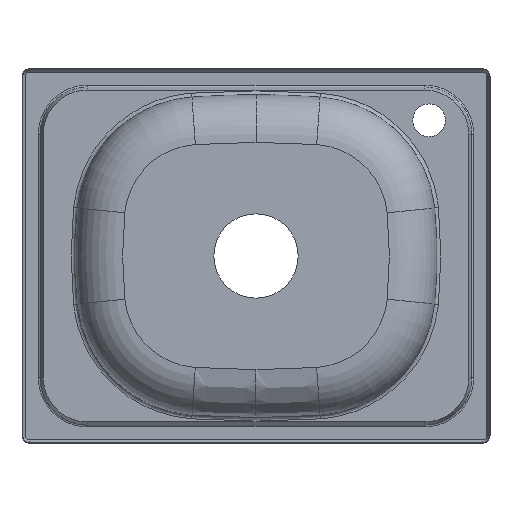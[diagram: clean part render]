
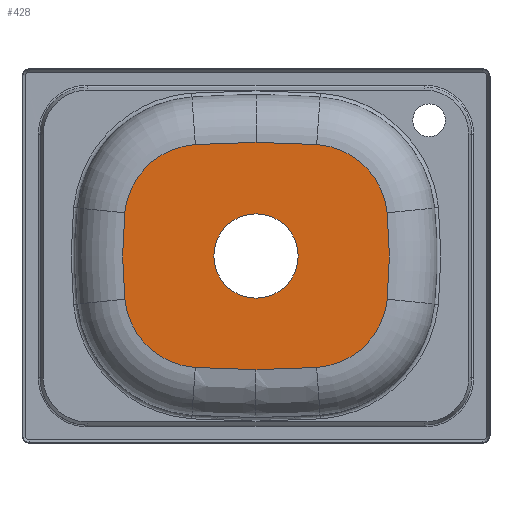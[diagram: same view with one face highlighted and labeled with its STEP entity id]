
A CAD part, front view. The second image highlights one B-rep face of the part: STEP entity #428.
In plain terms, the highlighted planar face has unit normal (0, -1, 0).
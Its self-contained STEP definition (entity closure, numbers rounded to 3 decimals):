
#135=PLANE('',#3218);
#170=FACE_BOUND('',#827,.T.);
#171=FACE_BOUND('',#828,.T.);
#196=B_SPLINE_CURVE_WITH_KNOTS('',5,(#4102,#4103,#4104,#4105,#4106,#4107),
 .UNSPECIFIED.,.F.,.F.,(6,6),(0.,1.),.UNSPECIFIED.);
#197=B_SPLINE_CURVE_WITH_KNOTS('',5,(#4110,#4111,#4112,#4113,#4114,#4115,
#4116,#4117,#4118,#4119,#4120,#4121,#4122,#4123,#4124),.UNSPECIFIED.,.F.,
 .F.,(6,3,3,3,6),(0.,0.33,0.66,0.99,
1.),.UNSPECIFIED.);
#198=B_SPLINE_CURVE_WITH_KNOTS('',5,(#4126,#4127,#4128,#4129,#4130,#4131),
 .UNSPECIFIED.,.F.,.F.,(6,6),(0.,1.),.UNSPECIFIED.);
#199=B_SPLINE_CURVE_WITH_KNOTS('',5,(#4133,#4134,#4135,#4136,#4137,#4138),
 .UNSPECIFIED.,.F.,.F.,(6,6),(0.,1.),.UNSPECIFIED.);
#200=B_SPLINE_CURVE_WITH_KNOTS('',5,(#4140,#4141,#4142,#4143,#4144,#4145,
#4146,#4147,#4148,#4149,#4150,#4151,#4152,#4153,#4154),.UNSPECIFIED.,.F.,
 .F.,(6,3,3,3,6),(0.,0.33,0.66,0.99,
1.),.UNSPECIFIED.);
#201=B_SPLINE_CURVE_WITH_KNOTS('',5,(#4156,#4157,#4158,#4159,#4160,#4161),
 .UNSPECIFIED.,.F.,.F.,(6,6),(0.,1.),.UNSPECIFIED.);
#202=B_SPLINE_CURVE_WITH_KNOTS('',5,(#4163,#4164,#4165,#4166,#4167,#4168,
#4169,#4170,#4171,#4172,#4173,#4174,#4175,#4176,#4177),.UNSPECIFIED.,.F.,
 .F.,(6,3,3,3,6),(0.,0.33,0.66,0.99,
1.),.UNSPECIFIED.);
#203=B_SPLINE_CURVE_WITH_KNOTS('',5,(#4179,#4180,#4181,#4182,#4183,#4184),
 .UNSPECIFIED.,.F.,.F.,(6,6),(0.,1.),.UNSPECIFIED.);
#204=B_SPLINE_CURVE_WITH_KNOTS('',5,(#4186,#4187,#4188,#4189,#4190,#4191),
 .UNSPECIFIED.,.F.,.F.,(6,6),(0.,1.),.UNSPECIFIED.);
#205=B_SPLINE_CURVE_WITH_KNOTS('',5,(#4193,#4194,#4195,#4196,#4197,#4198,
#4199,#4200,#4201,#4202,#4203,#4204,#4205,#4206,#4207),.UNSPECIFIED.,.F.,
 .F.,(6,3,3,3,6),(0.,0.33,0.66,0.99,
1.),.UNSPECIFIED.);
#428=ADVANCED_FACE('BODY.2',(#170,#171),#135,.T.);
#827=EDGE_LOOP('',(#1339,#1340,#1341,#1342,#1343,#1344,#1345,#1346,#1347,
#1348));
#828=EDGE_LOOP('',(#1349,#1350,#1351,#1352));
#1339=ORIENTED_EDGE('',*,*,#2620,.T.);
#1340=ORIENTED_EDGE('',*,*,#2621,.T.);
#1341=ORIENTED_EDGE('',*,*,#2622,.F.);
#1342=ORIENTED_EDGE('',*,*,#2623,.F.);
#1343=ORIENTED_EDGE('',*,*,#2624,.T.);
#1344=ORIENTED_EDGE('',*,*,#2625,.T.);
#1345=ORIENTED_EDGE('',*,*,#2626,.T.);
#1346=ORIENTED_EDGE('',*,*,#2627,.T.);
#1347=ORIENTED_EDGE('',*,*,#2628,.T.);
#1348=ORIENTED_EDGE('',*,*,#2629,.T.);
#1349=ORIENTED_EDGE('',*,*,#2630,.F.);
#1350=ORIENTED_EDGE('',*,*,#2603,.F.);
#1351=ORIENTED_EDGE('',*,*,#2618,.F.);
#1352=ORIENTED_EDGE('',*,*,#2631,.F.);
#2291=VERTEX_POINT('',#4057);
#2292=VERTEX_POINT('',#4059);
#2305=VERTEX_POINT('',#4099);
#2306=VERTEX_POINT('',#4108);
#2307=VERTEX_POINT('',#4109);
#2308=VERTEX_POINT('',#4125);
#2309=VERTEX_POINT('',#4132);
#2310=VERTEX_POINT('',#4139);
#2311=VERTEX_POINT('',#4155);
#2312=VERTEX_POINT('',#4162);
#2313=VERTEX_POINT('',#4178);
#2314=VERTEX_POINT('',#4185);
#2315=VERTEX_POINT('',#4192);
#2316=VERTEX_POINT('',#4209);
#2603=EDGE_CURVE('',#2291,#2292,#3088,.T.);
#2618=EDGE_CURVE('',#2305,#2291,#3100,.T.);
#2620=EDGE_CURVE('',#2306,#2307,#196,.T.);
#2621=EDGE_CURVE('',#2307,#2308,#197,.T.);
#2622=EDGE_CURVE('',#2309,#2308,#198,.T.);
#2623=EDGE_CURVE('',#2310,#2309,#199,.T.);
#2624=EDGE_CURVE('',#2310,#2311,#200,.T.);
#2625=EDGE_CURVE('',#2311,#2312,#201,.T.);
#2626=EDGE_CURVE('',#2312,#2313,#202,.T.);
#2627=EDGE_CURVE('',#2313,#2314,#203,.T.);
#2628=EDGE_CURVE('',#2314,#2315,#204,.T.);
#2629=EDGE_CURVE('',#2315,#2306,#205,.T.);
#2630=EDGE_CURVE('GENERATED CIRCLE',#2292,#2316,#3101,.T.);
#2631=EDGE_CURVE('GENERATED CIRCLE',#2316,#2305,#3102,.T.);
#3088=CIRCLE('',#3200,45.);
#3100=CIRCLE('',#3214,45.);
#3101=CIRCLE('',#3216,45.);
#3102=CIRCLE('',#3217,45.);
#3200=AXIS2_PLACEMENT_3D('',#4058,#3437,#3438);
#3214=AXIS2_PLACEMENT_3D('',#4098,#3466,#3467);
#3216=AXIS2_PLACEMENT_3D('',#4208,#3471,#3472);
#3217=AXIS2_PLACEMENT_3D('',#4210,#3473,#3474);
#3218=AXIS2_PLACEMENT_3D('',#4211,#3475,#3476);
#3437=DIRECTION('',(0.,-1.,0.));
#3438=DIRECTION('',(0.,0.,-1.));
#3466=DIRECTION('',(0.,-1.,0.));
#3467=DIRECTION('',(0.,0.,-1.));
#3471=DIRECTION('',(0.,-1.,0.));
#3472=DIRECTION('',(1.,0.,0.));
#3473=DIRECTION('',(0.,-1.,0.));
#3474=DIRECTION('',(1.,0.,0.));
#3475=DIRECTION('',(0.,-1.,0.));
#3476=DIRECTION('',(0.,0.,-1.));
#4057=CARTESIAN_POINT('',(45.,-161.4,0.));
#4058=CARTESIAN_POINT('',(0.,-161.4,0.));
#4059=CARTESIAN_POINT('',(0.,-161.4,45.));
#4098=CARTESIAN_POINT('',(0.,-161.4,0.));
#4099=CARTESIAN_POINT('',(0.,-161.4,-45.));
#4102=CARTESIAN_POINT('',(-140.146,-161.4,46.111));
#4103=CARTESIAN_POINT('',(-142.028,-161.4,27.731));
#4104=CARTESIAN_POINT('',(-142.972,-161.4,9.254));
#4105=CARTESIAN_POINT('',(-142.972,-161.4,-9.254));
#4106=CARTESIAN_POINT('',(-142.028,-161.4,-27.731));
#4107=CARTESIAN_POINT('',(-140.146,-161.4,-46.111));
#4108=CARTESIAN_POINT('',(-140.146,-161.4,46.111));
#4109=CARTESIAN_POINT('',(-140.146,-161.4,-46.111));
#4110=CARTESIAN_POINT('',(-140.146,-161.4,-46.111));
#4111=CARTESIAN_POINT('',(-139.38,-161.4,-53.59));
#4112=CARTESIAN_POINT('',(-137.752,-161.4,-60.981));
#4113=CARTESIAN_POINT('',(-135.275,-161.4,-68.152));
#4114=CARTESIAN_POINT('',(-128.712,-161.4,-81.791));
#4115=CARTESIAN_POINT('',(-119.217,-161.4,-93.579));
#4116=CARTESIAN_POINT('',(-113.807,-161.4,-98.898));
#4117=CARTESIAN_POINT('',(-101.86,-161.4,-108.191));
#4118=CARTESIAN_POINT('',(-88.111,-161.4,-114.521));
#4119=CARTESIAN_POINT('',(-80.899,-161.4,-116.876));
#4120=CARTESIAN_POINT('',(-73.251,-161.4,-118.425));
#4121=CARTESIAN_POINT('',(-65.525,-161.4,-119.056));
#4122=CARTESIAN_POINT('',(-65.292,-161.4,-119.074));
#4123=CARTESIAN_POINT('',(-65.059,-161.4,-119.091));
#4124=CARTESIAN_POINT('',(-64.826,-161.4,-119.108));
#4125=CARTESIAN_POINT('',(-64.826,-161.4,-119.108));
#4126=CARTESIAN_POINT('',(0.,-161.4,-121.4));
#4127=CARTESIAN_POINT('',(-12.975,-161.4,-121.4));
#4128=CARTESIAN_POINT('',(-25.952,-161.4,-121.17));
#4129=CARTESIAN_POINT('',(-38.923,-161.4,-120.712));
#4130=CARTESIAN_POINT('',(-51.883,-161.4,-120.024));
#4131=CARTESIAN_POINT('',(-64.826,-161.4,-119.108));
#4132=CARTESIAN_POINT('',(0.,-161.4,-121.4));
#4133=CARTESIAN_POINT('',(64.826,-161.4,-119.108));
#4134=CARTESIAN_POINT('',(51.883,-161.4,-120.024));
#4135=CARTESIAN_POINT('',(38.923,-161.4,-120.712));
#4136=CARTESIAN_POINT('',(25.952,-161.4,-121.17));
#4137=CARTESIAN_POINT('',(12.975,-161.4,-121.4));
#4138=CARTESIAN_POINT('',(0.,-161.4,-121.4));
#4139=CARTESIAN_POINT('',(64.826,-161.4,-119.108));
#4140=CARTESIAN_POINT('',(64.826,-161.4,-119.108));
#4141=CARTESIAN_POINT('',(72.326,-161.4,-118.577));
#4142=CARTESIAN_POINT('',(79.764,-161.4,-117.181));
#4143=CARTESIAN_POINT('',(87.009,-161.4,-114.929));
#4144=CARTESIAN_POINT('',(100.847,-161.4,-108.797));
#4145=CARTESIAN_POINT('',(112.927,-161.4,-99.676));
#4146=CARTESIAN_POINT('',(118.412,-161.4,-94.435));
#4147=CARTESIAN_POINT('',(128.075,-161.4,-82.784));
#4148=CARTESIAN_POINT('',(134.832,-161.4,-69.24));
#4149=CARTESIAN_POINT('',(137.412,-161.4,-62.106));
#4150=CARTESIAN_POINT('',(139.2,-161.4,-54.51));
#4151=CARTESIAN_POINT('',(140.072,-161.4,-46.807));
#4152=CARTESIAN_POINT('',(140.098,-161.4,-46.575));
#4153=CARTESIAN_POINT('',(140.122,-161.4,-46.343));
#4154=CARTESIAN_POINT('',(140.146,-161.4,-46.111));
#4155=CARTESIAN_POINT('',(140.146,-161.4,-46.111));
#4156=CARTESIAN_POINT('',(140.146,-161.4,-46.111));
#4157=CARTESIAN_POINT('',(142.028,-161.4,-27.731));
#4158=CARTESIAN_POINT('',(142.972,-161.4,-9.254));
#4159=CARTESIAN_POINT('',(142.972,-161.4,9.254));
#4160=CARTESIAN_POINT('',(142.028,-161.4,27.731));
#4161=CARTESIAN_POINT('',(140.146,-161.4,46.111));
#4162=CARTESIAN_POINT('',(140.146,-161.4,46.111));
#4163=CARTESIAN_POINT('',(140.146,-161.4,46.111));
#4164=CARTESIAN_POINT('',(139.38,-161.4,53.59));
#4165=CARTESIAN_POINT('',(137.752,-161.4,60.981));
#4166=CARTESIAN_POINT('',(135.275,-161.4,68.152));
#4167=CARTESIAN_POINT('',(128.712,-161.4,81.791));
#4168=CARTESIAN_POINT('',(119.217,-161.4,93.579));
#4169=CARTESIAN_POINT('',(113.807,-161.4,98.898));
#4170=CARTESIAN_POINT('',(101.86,-161.4,108.191));
#4171=CARTESIAN_POINT('',(88.111,-161.4,114.521));
#4172=CARTESIAN_POINT('',(80.899,-161.4,116.876));
#4173=CARTESIAN_POINT('',(73.251,-161.4,118.425));
#4174=CARTESIAN_POINT('',(65.525,-161.4,119.056));
#4175=CARTESIAN_POINT('',(65.292,-161.4,119.074));
#4176=CARTESIAN_POINT('',(65.059,-161.4,119.091));
#4177=CARTESIAN_POINT('',(64.826,-161.4,119.108));
#4178=CARTESIAN_POINT('',(64.826,-161.4,119.108));
#4179=CARTESIAN_POINT('',(64.826,-161.4,119.108));
#4180=CARTESIAN_POINT('',(51.883,-161.4,120.024));
#4181=CARTESIAN_POINT('',(38.923,-161.4,120.712));
#4182=CARTESIAN_POINT('',(25.952,-161.4,121.171));
#4183=CARTESIAN_POINT('',(12.976,-161.4,121.4));
#4184=CARTESIAN_POINT('',(0.,-161.4,121.4));
#4185=CARTESIAN_POINT('',(0.,-161.4,121.4));
#4186=CARTESIAN_POINT('',(0.,-161.4,121.4));
#4187=CARTESIAN_POINT('',(-12.976,-161.4,121.4));
#4188=CARTESIAN_POINT('',(-25.952,-161.4,121.171));
#4189=CARTESIAN_POINT('',(-38.923,-161.4,120.712));
#4190=CARTESIAN_POINT('',(-51.883,-161.4,120.024));
#4191=CARTESIAN_POINT('',(-64.826,-161.4,119.108));
#4192=CARTESIAN_POINT('',(-64.826,-161.4,119.108));
#4193=CARTESIAN_POINT('',(-64.826,-161.4,119.108));
#4194=CARTESIAN_POINT('',(-72.326,-161.4,118.577));
#4195=CARTESIAN_POINT('',(-79.764,-161.4,117.181));
#4196=CARTESIAN_POINT('',(-87.009,-161.4,114.929));
#4197=CARTESIAN_POINT('',(-100.847,-161.4,108.797));
#4198=CARTESIAN_POINT('',(-112.927,-161.4,99.676));
#4199=CARTESIAN_POINT('',(-118.412,-161.4,94.435));
#4200=CARTESIAN_POINT('',(-128.075,-161.4,82.784));
#4201=CARTESIAN_POINT('',(-134.832,-161.4,69.24));
#4202=CARTESIAN_POINT('',(-137.412,-161.4,62.106));
#4203=CARTESIAN_POINT('',(-139.2,-161.4,54.51));
#4204=CARTESIAN_POINT('',(-140.072,-161.4,46.807));
#4205=CARTESIAN_POINT('',(-140.098,-161.4,46.575));
#4206=CARTESIAN_POINT('',(-140.122,-161.4,46.343));
#4207=CARTESIAN_POINT('',(-140.146,-161.4,46.111));
#4208=CARTESIAN_POINT('',(0.,-161.4,0.));
#4209=CARTESIAN_POINT('',(-45.,-161.4,0.));
#4210=CARTESIAN_POINT('',(0.,-161.4,0.));
#4211=CARTESIAN_POINT('',(0.,-161.4,0.));
